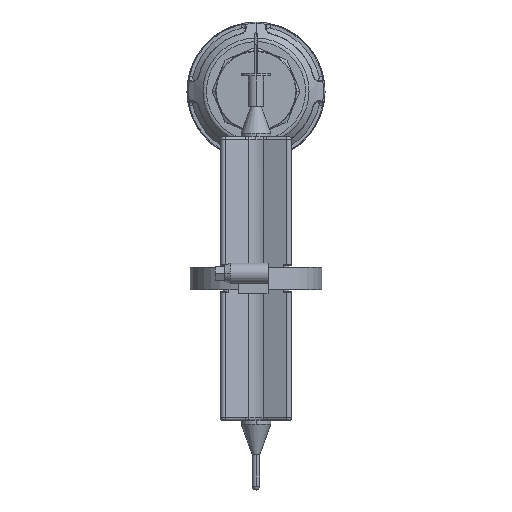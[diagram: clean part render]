
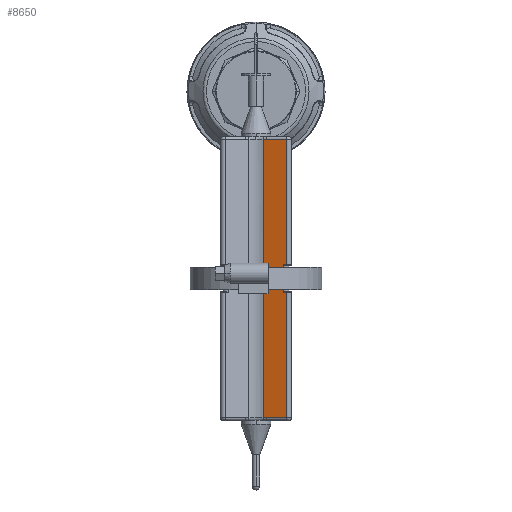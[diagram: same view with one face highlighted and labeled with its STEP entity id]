
A CAD part, front view. The second image highlights one B-rep face of the part: STEP entity #8650.
In plain terms, the highlighted planar face has unit normal (-0.347, -0.938, 0).
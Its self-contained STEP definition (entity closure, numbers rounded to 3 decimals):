
#4172 = DIRECTION ( 'NONE',  ( -0.938, 0.347, 0.018 ) ) ;
#4177 = LINE ( 'NONE', #7887, #17797 ) ;
#4890 = ORIENTED_EDGE ( 'NONE', *, *, #25071, .F. ) ;
#5246 = CARTESIAN_POINT ( 'NONE',  ( 2.779, -31.948, -18. ) ) ;
#5431 = CARTESIAN_POINT ( 'NONE',  ( 11.979, -35.357, -18. ) ) ;
#5993 = VECTOR ( 'NONE', #62987, 1000. ) ;
#6632 = EDGE_CURVE ( 'NONE', #30407, #7259, #4177, .T. ) ;
#6886 = VERTEX_POINT ( 'NONE', #12894 ) ;
#7259 = VERTEX_POINT ( 'NONE', #54720 ) ;
#7343 = ORIENTED_EDGE ( 'NONE', *, *, #26493, .F. ) ;
#7887 = CARTESIAN_POINT ( 'NONE',  ( 11.979, -35.357, -68.5 ) ) ;
#8650 = ADVANCED_FACE ( 'NONE', ( #57456 ), #73243, .F. ) ;
#9615 = VECTOR ( 'NONE', #4172, 1000. ) ;
#9625 = VERTEX_POINT ( 'NONE', #30180 ) ;
#9878 = VERTEX_POINT ( 'NONE', #94084 ) ;
#10460 = VECTOR ( 'NONE', #64214, 1000. ) ;
#12561 = VERTEX_POINT ( 'NONE', #76638 ) ;
#12894 = CARTESIAN_POINT ( 'NONE',  ( 10.979, -34.986, -79.5 ) ) ;
#14998 = LINE ( 'NONE', #5431, #10460 ) ;
#15176 = EDGE_CURVE ( 'NONE', #7259, #6886, #30940, .T. ) ;
#16127 = CARTESIAN_POINT ( 'NONE',  ( 11.979, -35.357, -79.5 ) ) ;
#17797 = VECTOR ( 'NONE', #74866, 1000. ) ;
#18478 = EDGE_CURVE ( 'NONE', #9878, #12561, #90754, .T. ) ;
#19055 = CARTESIAN_POINT ( 'NONE',  ( 4.036, -32.414, -129. ) ) ;
#20147 = ORIENTED_EDGE ( 'NONE', *, *, #77493, .F. ) ;
#21320 = VERTEX_POINT ( 'NONE', #21648 ) ;
#21648 = CARTESIAN_POINT ( 'NONE',  ( 2.779, -31.948, -128.976 ) ) ;
#25071 = EDGE_CURVE ( 'NONE', #56597, #81531, #37840, .T. ) ;
#26493 = EDGE_CURVE ( 'NONE', #81382, #56597, #14998, .T. ) ;
#29100 = DIRECTION ( 'NONE',  ( 0., 0., -1. ) ) ;
#30180 = CARTESIAN_POINT ( 'NONE',  ( 11.979, -35.357, -19. ) ) ;
#30407 = VERTEX_POINT ( 'NONE', #83605 ) ;
#30940 = LINE ( 'NONE', #51615, #70729 ) ;
#31705 = VECTOR ( 'NONE', #77256, 1000. ) ;
#34444 = CARTESIAN_POINT ( 'NONE',  ( 11.979, -35.357, -18. ) ) ;
#37410 = DIRECTION ( 'NONE',  ( -0.938, 0.347, 0. ) ) ;
#37840 = LINE ( 'NONE', #47707, #5993 ) ;
#38030 = LINE ( 'NONE', #5246, #73235 ) ;
#38526 = LINE ( 'NONE', #34444, #31705 ) ;
#38840 = VECTOR ( 'NONE', #60188, 1000. ) ;
#39515 = EDGE_CURVE ( 'NONE', #9878, #21320, #38030, .T. ) ;
#41611 = LINE ( 'NONE', #16127, #72291 ) ;
#44321 = CARTESIAN_POINT ( 'NONE',  ( 11.979, -35.357, -129. ) ) ;
#46334 = ORIENTED_EDGE ( 'NONE', *, *, #15176, .F. ) ;
#47457 = CARTESIAN_POINT ( 'NONE',  ( 4.036, -32.414, -129. ) ) ;
#47707 = CARTESIAN_POINT ( 'NONE',  ( 11.979, -35.357, -129. ) ) ;
#51615 = CARTESIAN_POINT ( 'NONE',  ( 10.979, -34.986, -18. ) ) ;
#51811 = AXIS2_PLACEMENT_3D ( 'NONE', #66584, #88695, #37410 ) ;
#54720 = CARTESIAN_POINT ( 'NONE',  ( 10.979, -34.986, -68.5 ) ) ;
#55294 = EDGE_LOOP ( 'NONE', ( #55491, #94073, #72722, #68918, #71602, #87448, #4890, #7343, #20147, #46334 ) ) ;
#55491 = ORIENTED_EDGE ( 'NONE', *, *, #6632, .F. ) ;
#56597 = VERTEX_POINT ( 'NONE', #44321 ) ;
#57456 = FACE_OUTER_BOUND ( 'NONE', #55294, .T. ) ;
#59650 = DIRECTION ( 'NONE',  ( 0.938, -0.347, 0. ) ) ;
#60188 = DIRECTION ( 'NONE',  ( 0.938, -0.347, 0. ) ) ;
#62987 = DIRECTION ( 'NONE',  ( -0.938, 0.347, 0. ) ) ;
#64214 = DIRECTION ( 'NONE',  ( 0., 0., -1. ) ) ;
#66584 = CARTESIAN_POINT ( 'NONE',  ( 11.979, -35.357, -18. ) ) ;
#68918 = ORIENTED_EDGE ( 'NONE', *, *, #18478, .F. ) ;
#70729 = VECTOR ( 'NONE', #29100, 1000. ) ;
#71602 = ORIENTED_EDGE ( 'NONE', *, *, #39515, .T. ) ;
#72291 = VECTOR ( 'NONE', #59650, 1000. ) ;
#72722 = ORIENTED_EDGE ( 'NONE', *, *, #85231, .F. ) ;
#73235 = VECTOR ( 'NONE', #93096, 1000. ) ;
#73243 = PLANE ( 'NONE',  #51811 ) ;
#73735 = EDGE_CURVE ( 'NONE', #9625, #30407, #38526, .T. ) ;
#74866 = DIRECTION ( 'NONE',  ( -0.938, 0.347, 0. ) ) ;
#75258 = LINE ( 'NONE', #81381, #38840 ) ;
#76638 = CARTESIAN_POINT ( 'NONE',  ( 4.036, -32.414, -19. ) ) ;
#77256 = DIRECTION ( 'NONE',  ( 0., 0., -1. ) ) ;
#77493 = EDGE_CURVE ( 'NONE', #6886, #81382, #41611, .T. ) ;
#77853 = LINE ( 'NONE', #19055, #9615 ) ;
#81381 = CARTESIAN_POINT ( 'NONE',  ( 2.779, -31.948, -19. ) ) ;
#81382 = VERTEX_POINT ( 'NONE', #81401 ) ;
#81401 = CARTESIAN_POINT ( 'NONE',  ( 11.979, -35.357, -79.5 ) ) ;
#81531 = VERTEX_POINT ( 'NONE', #47457 ) ;
#83605 = CARTESIAN_POINT ( 'NONE',  ( 11.979, -35.357, -68.5 ) ) ;
#85231 = EDGE_CURVE ( 'NONE', #12561, #9625, #75258, .T. ) ;
#85380 = DIRECTION ( 'NONE',  ( 0.938, -0.347, 0.018 ) ) ;
#87411 = EDGE_CURVE ( 'NONE', #81531, #21320, #77853, .T. ) ;
#87448 = ORIENTED_EDGE ( 'NONE', *, *, #87411, .F. ) ;
#88695 = DIRECTION ( 'NONE',  ( 0.347, 0.938, 0. ) ) ;
#90754 = LINE ( 'NONE', #92371, #93022 ) ;
#92371 = CARTESIAN_POINT ( 'NONE',  ( 2.779, -31.948, -19.024 ) ) ;
#93022 = VECTOR ( 'NONE', #85380, 1000. ) ;
#93096 = DIRECTION ( 'NONE',  ( 0., 0., -1. ) ) ;
#94073 = ORIENTED_EDGE ( 'NONE', *, *, #73735, .F. ) ;
#94084 = CARTESIAN_POINT ( 'NONE',  ( 2.779, -31.948, -19.024 ) ) ;
